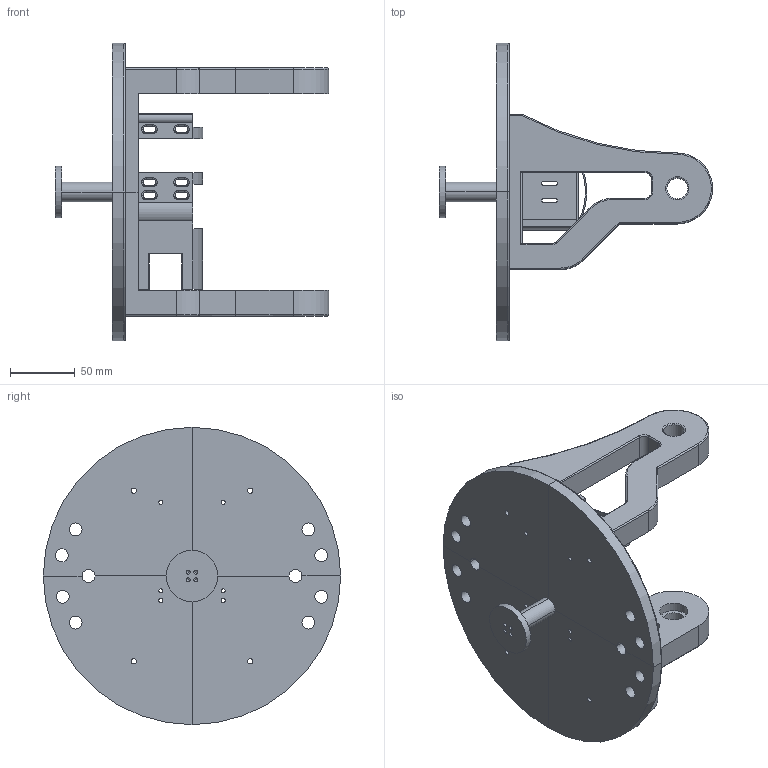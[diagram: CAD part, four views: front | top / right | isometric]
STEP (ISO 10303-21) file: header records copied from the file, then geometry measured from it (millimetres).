
FILE_DESCRIPTION(/* description */ (''),/* implementation_level */ '2;1');
FILE_NAME(/* name */ 'Arm_base_final.step',/* time_stamp */ '2026-08-20T15:12:11+01:00',/* author */ (''),/* organization */ (''),/* preprocessor_version */ 'ST-DEVELOPER v20.1',/* originating_system */ 'Autodesk Translation Framework v15.8.0.0',/* authorisation */ '');
FILE_SCHEMA (('AUTOMOTIVE_DESIGN { 1 0 10303 214 3 1 1 }'));
Length unit declared in the file: millimetre
Products named in the file (1): Arm base
Bounding box: 211.32 x 230 x 230 mm (x, y, z)
Volume: 982958.7 mm3; surface area: 255876 mm2
Topology: 9 solids, 9 shells, 452 faces, 1167 edges, 730 vertices
Faces by surface type: cylinder 220, plane 145, torus 80, cone 6, sphere 1
Full cylindrical faces by diameter (mm): 3.171 x30, 3.5 x4, 4.029 x8, 5.029 x2, 10 x8, 16 x2, 22 x2, 25.2 x1, 40 x1
Entity records: 14121 total; most frequent: DIRECTION 2616, CARTESIAN_POINT 2387, ORIENTED_EDGE 2322, EDGE_CURVE 1161, AXIS2_PLACEMENT_3D 1007, VERTEX_POINT 730, LINE 602, VECTOR 602
